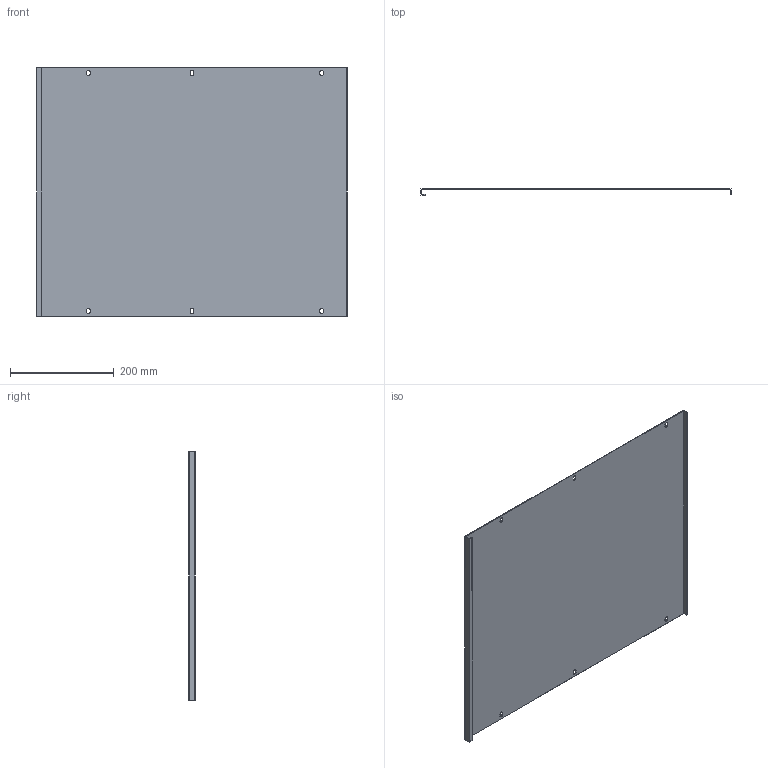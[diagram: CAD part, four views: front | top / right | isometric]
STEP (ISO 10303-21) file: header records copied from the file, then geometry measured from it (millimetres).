
FILE_DESCRIPTION (( 'STEP AP214' ), '1' );
FILE_NAME ('FO-00-PVS-060-060 Ïëàñòðîí ãëóõîé âíóòðåííèé 600õ600.STEP', '2025-08-26T08:32:25', ( '' ), ( '' ), 'SwSTEP 2.0', 'SolidWorks 2023', '' );
FILE_SCHEMA (( 'AUTOMOTIVE_DESIGN' ));
Length unit declared in the file: millimetre
Products named in the file (1): FO-00-PVS-060-060 Пластрон глухой внутренний 600х600
Bounding box: 598 x 12.5 x 479 mm (x, y, z)
Volume: 447808.6 mm3; surface area: 600639.1 mm2
Topology: 1 solids, 1 shells, 52 faces, 150 edges, 100 vertices
Faces by surface type: plane 34, cylinder 18
Entity records: 1757 total; most frequent: CARTESIAN_POINT 303, ORIENTED_EDGE 300, DIRECTION 292, EDGE_CURVE 150, LINE 114, VECTOR 114, VERTEX_POINT 100, AXIS2_PLACEMENT_3D 89
